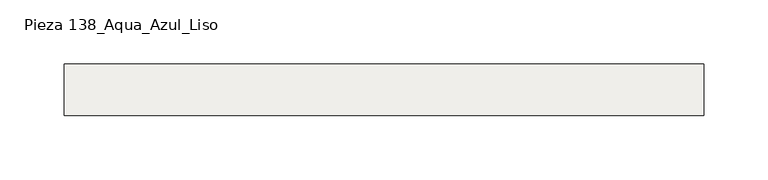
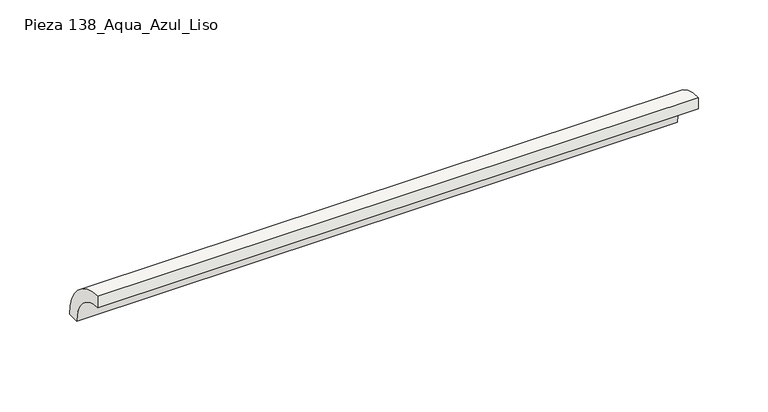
"""IFC4 building model written with IfcOpenShell, lengths in millimetres: slab geometry, ROSA GRES_138 : Pieza 138_Aqua_Azul_Liso."""

from ifc_helpers import new_model, si_unit, point, frame, frame_2d, origin, origin_2d, place, context, project, spatial, polyline, circle_curve, trimmed, segment, composite_curve, outline, extrude, source, transform, mapped, element, save


def pieza_138_aqua_azul_liso_8f38ea3c(model_context):
    return source(origin(), model_context, "Body", "SweptSolid", [
        extrude(outline(composite_curve([segment(trimmed(circle_curve(origin_2d(), 40.0), [point((0.0, 40.0))], [point((40.0, 0.0))], False, "CARTESIAN"), True, "CONTINUOUS"), segment(polyline([(40.0, 0.0), (30.0265886, 0.0)]), True, "CONTINUOUS"), segment(trimmed(circle_curve(frame_2d((0.0044453, 0.0044453)), 30.0221435), [point((30.0265886, 0.0))], [point((0.0, 30.0265886))], True, "CARTESIAN"), True, "CONTINUOUS"), segment(polyline([(0.0, 30.0265886), (0.0, 40.0)]), True, "CONTINUOUS")], self_intersect=False)), frame((0.0, 0.0, 0.0), z_axis=(1.0, 0.0, 0.0), x_axis=(0.0, 1.0, 0.0)), (0.0, 0.0, 1.0), 496.7866388),
    ])


if __name__ == "__main__":
    model = new_model("IFC4")
    model_context = context("Model", 3, world=origin())
    ifc_project = project(units=[si_unit("LENGTHUNIT", "METRE", prefix="MILLI")], contexts=[model_context])
    site = spatial("IfcSite", under=ifc_project)
    building = spatial("IfcBuilding", under=site)
    placement = place(None, origin())
    pieza_138_aqua_azul_liso_shape = pieza_138_aqua_azul_liso_8f38ea3c(model_context)
    element("IfcSlab", 1, ObjectType="ROSA GRES_138 : Pieza 138_Aqua_Azul_Liso", at=placement, inside=building, context=model_context, shape_type="MappedRepresentation", body=[
        mapped(pieza_138_aqua_azul_liso_shape, transform((0.0, 0.0, 0.0), x_axis=(1.0, 0.0, 0.0), y_axis=(0.0, 1.0, 0.0), z_axis=(0.0, 0.0, 1.0))),
    ])
    save(model, "model.ifc")
